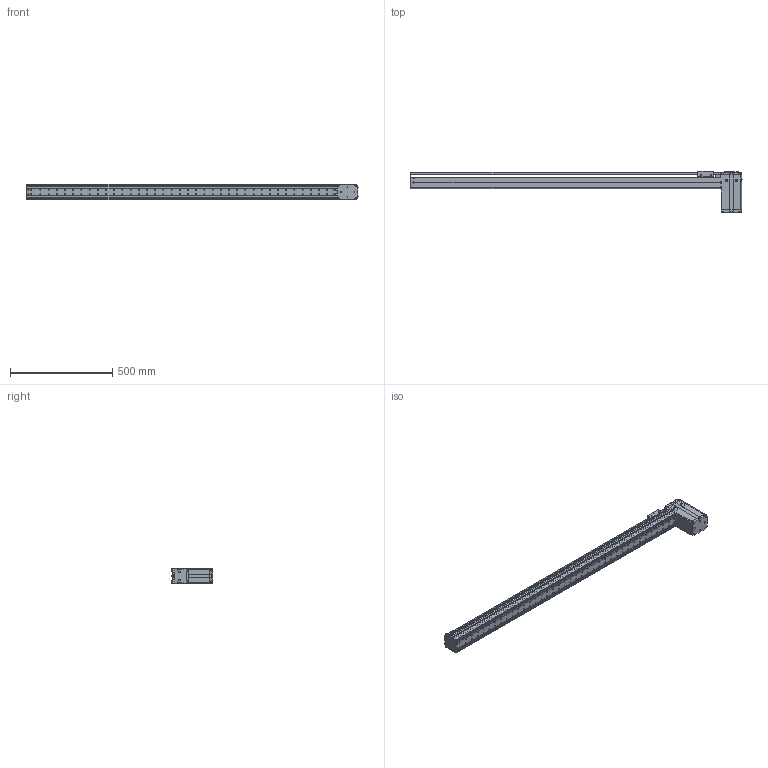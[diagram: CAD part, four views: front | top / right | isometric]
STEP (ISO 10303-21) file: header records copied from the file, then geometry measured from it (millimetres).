
FILE_DESCRIPTION((''),'2;1');
FILE_NAME('BE10_-BU-S_N-D5_IGS_PRT','2017-06-18T',(' '),(''),'PRO/ENGINEER BY PARAMETRIC TECHNOLOGY CORPORATION, 2015030','PRO/ENGINEER BY PARAMETRIC TECHNOLOGY CORPORATION, 2015030','');
FILE_SCHEMA(('CONFIG_CONTROL_DESIGN'));
Products named in the file (1): BE10_-BU-S_N-D5_IGS_PRT
Bounding box: 1620.8 x 202.72 x 78 mm (x, y, z)
Volume: 2232025.2 mm3; surface area: 1519477.8 mm2
Topology: 2 solids, 161 shells, 2208 faces, 6055 edges, 4011 vertices
Faces by surface type: plane 1062, cylinder 987, cone 103, sphere 28, torus 25, bspline 3
Entity records: 72255 total; most frequent: CARTESIAN_POINT 14830, DIRECTION 12197, ORIENTED_EDGE 11446, EDGE_CURVE 6001, AXIS2_PLACEMENT_3D 4407, VERTEX_POINT 4011, VECTOR 3383, LINE 3383
